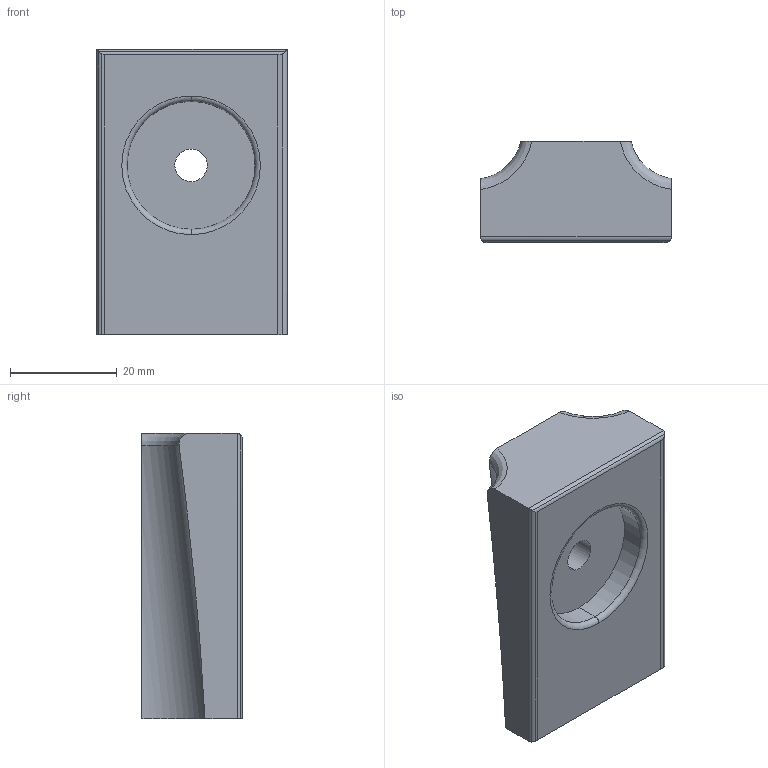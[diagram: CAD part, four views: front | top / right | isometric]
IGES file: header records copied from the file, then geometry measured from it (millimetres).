
Start section: 3D InterOp IGES (Version 24 0 1), Spatial Corp. Copyright (c) 1999-2007.
Global section: file name: presse x4.igs; native system: Spatial Corp.; preprocessor: 3D InterOp ACIS/IGES; author: Noname; organization: Noname; date: 20160210.170850; units: millimetre
Bounding box: 35.82 x 18.94 x 53.48 mm (x, y, z)
Volume: 23913.2 mm3; surface area: 6955.1 mm2
Topology: 1 solids, 1 shells, 27 faces, 73 edges, 49 vertices
Faces by surface type: cylinder 16, plane 7, torus 2, bspline 2
